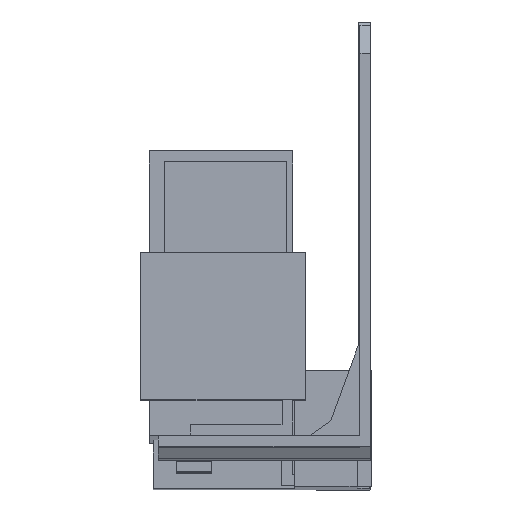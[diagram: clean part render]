
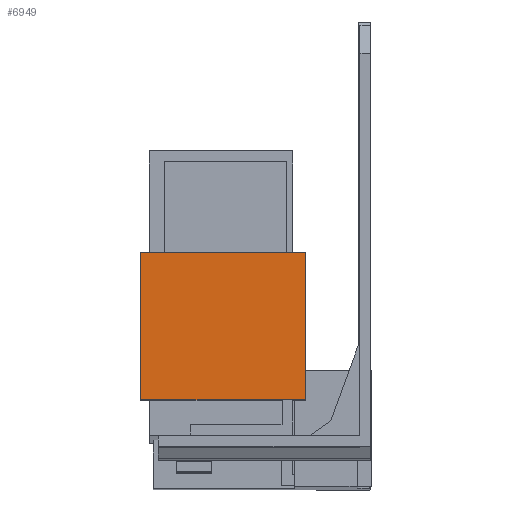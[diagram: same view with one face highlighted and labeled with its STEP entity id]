
A CAD part, front view. The second image highlights one B-rep face of the part: STEP entity #6949.
In plain terms, the highlighted planar face has unit normal (0, -1, 0.003).
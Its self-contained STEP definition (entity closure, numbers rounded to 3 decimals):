
#95 = EDGE_CURVE ( 'NONE', #5914, #5915, #4938, .T. ) ;
#121 = EDGE_CURVE ( 'NONE', #5917, #5914, #4971, .T. ) ;
#170 = EDGE_CURVE ( 'NONE', #5917, #5916, #5072, .T. ) ;
#653 = CARTESIAN_POINT ( 'NONE',  ( -9.3, -28.952, -19.322 ) ) ;
#654 = CARTESIAN_POINT ( 'NONE',  ( -32.7, -28.952, -19.322 ) ) ;
#655 = CARTESIAN_POINT ( 'NONE',  ( -32.7, -29.009, -40.322 ) ) ;
#656 = CARTESIAN_POINT ( 'NONE',  ( -9.3, -29.009, -40.322 ) ) ;
#1015 = PLANE ( 'NONE',  #1591 ) ;
#1018 = CARTESIAN_POINT ( 'NONE',  ( -9.3, -29.009, -40.322 ) ) ;
#1024 = DIRECTION ( 'NONE',  ( 0., -1., 0.003 ) ) ;
#1025 = DIRECTION ( 'NONE',  ( 1., 0., 0. ) ) ;
#1591 = AXIS2_PLACEMENT_3D ( 'NONE', #1018, #1024, #1025 ) ;
#1838 = EDGE_CURVE ( 'NONE', #5916, #5915, #2289, .T. ) ;
#2289 = LINE ( 'NONE', #3414, #2291 ) ;
#2291 = VECTOR ( 'NONE', #3415, 1000. ) ;
#3077 = FACE_OUTER_BOUND ( 'NONE', #7558, .T. ) ;
#3414 = CARTESIAN_POINT ( 'NONE',  ( -32.7, -29.009, -40.322 ) ) ;
#3415 = DIRECTION ( 'NONE',  ( 0., 0.003, 1. ) ) ;
#4485 = ORIENTED_EDGE ( 'NONE', *, *, #95, .T. ) ;
#4486 = ORIENTED_EDGE ( 'NONE', *, *, #1838, .F. ) ;
#4487 = ORIENTED_EDGE ( 'NONE', *, *, #170, .F. ) ;
#4488 = ORIENTED_EDGE ( 'NONE', *, *, #121, .T. ) ;
#4938 = LINE ( 'NONE', #6306, #4939 ) ;
#4939 = VECTOR ( 'NONE', #6307, 1000. ) ;
#4971 = LINE ( 'NONE', #6355, #4987 ) ;
#4987 = VECTOR ( 'NONE', #6361, 1000. ) ;
#5064 = VECTOR ( 'NONE', #6472, 1000. ) ;
#5072 = LINE ( 'NONE', #6467, #5064 ) ;
#5914 = VERTEX_POINT ( 'NONE', #653 ) ;
#5915 = VERTEX_POINT ( 'NONE', #654 ) ;
#5916 = VERTEX_POINT ( 'NONE', #655 ) ;
#5917 = VERTEX_POINT ( 'NONE', #656 ) ;
#6306 = CARTESIAN_POINT ( 'NONE',  ( -9.3, -28.952, -19.322 ) ) ;
#6307 = DIRECTION ( 'NONE',  ( -1., 0., 0. ) ) ;
#6355 = CARTESIAN_POINT ( 'NONE',  ( -9.3, -29.009, -40.322 ) ) ;
#6361 = DIRECTION ( 'NONE',  ( 0., 0.003, 1. ) ) ;
#6467 = CARTESIAN_POINT ( 'NONE',  ( -9.3, -29.009, -40.322 ) ) ;
#6472 = DIRECTION ( 'NONE',  ( -1., 0., 0. ) ) ;
#6949 = ADVANCED_FACE ( 'NONE', ( #3077 ), #1015, .T. ) ;
#7558 = EDGE_LOOP ( 'NONE', ( #4485, #4486, #4487, #4488 ) ) ;
